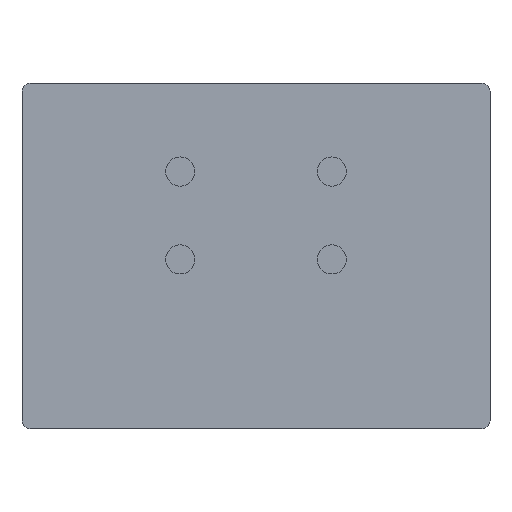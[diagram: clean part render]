
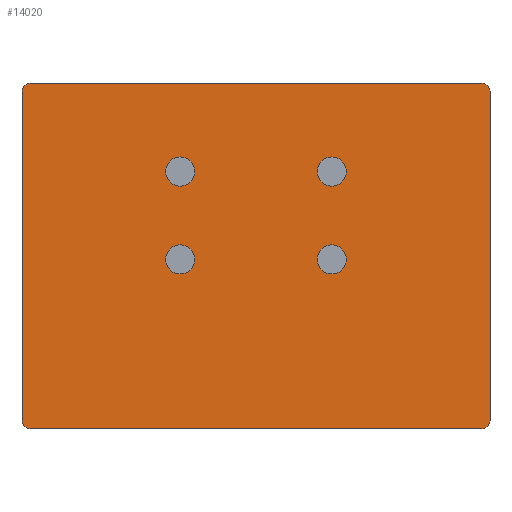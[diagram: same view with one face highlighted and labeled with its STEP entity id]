
A CAD part, front view. The second image highlights one B-rep face of the part: STEP entity #14020.
In plain terms, the highlighted planar face has unit normal (0, -1, 0).
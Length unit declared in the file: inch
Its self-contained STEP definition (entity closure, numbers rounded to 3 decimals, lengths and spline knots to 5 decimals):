
#809=FACE_BOUND('',#2209,.T.);
#810=FACE_BOUND('',#2210,.T.);
#811=FACE_BOUND('',#2211,.T.);
#812=FACE_BOUND('',#2212,.T.);
#899=PLANE('',#15051);
#1386=FACE_OUTER_BOUND('',#2208,.T.);
#2208=EDGE_LOOP('',(#9822,#9823,#9824,#9825,#9826,#9827,#9828,#9829));
#2209=EDGE_LOOP('',(#9830));
#2210=EDGE_LOOP('',(#9831));
#2211=EDGE_LOOP('',(#9832));
#2212=EDGE_LOOP('',(#9833));
#3040=LINE('',#19400,#4430);
#3077=LINE('',#19533,#4467);
#3105=LINE('',#19589,#4495);
#3106=LINE('',#19593,#4496);
#4430=VECTOR('',#16014,0.3937);
#4467=VECTOR('',#16125,0.3937);
#4495=VECTOR('',#16207,0.3937);
#4496=VECTOR('',#16210,0.3937);
#5812=CIRCLE('',#14973,0.1045);
#5814=CIRCLE('',#14976,0.1045);
#5816=CIRCLE('',#14979,0.1045);
#5818=CIRCLE('',#14982,0.1045);
#5820=CIRCLE('',#14985,0.06);
#5835=CIRCLE('',#15003,0.06);
#5846=CIRCLE('',#15052,0.06);
#5847=CIRCLE('',#15053,0.06);
#6123=VERTEX_POINT('',#19363);
#6125=VERTEX_POINT('',#19369);
#6127=VERTEX_POINT('',#19375);
#6129=VERTEX_POINT('',#19381);
#6131=VERTEX_POINT('',#19387);
#6132=VERTEX_POINT('',#19388);
#6136=VERTEX_POINT('',#19398);
#6168=VERTEX_POINT('',#19466);
#6195=VERTEX_POINT('',#19532);
#6196=VERTEX_POINT('',#19588);
#6197=VERTEX_POINT('',#19590);
#6198=VERTEX_POINT('',#19592);
#7503=EDGE_CURVE('',#6123,#6123,#5812,.T.);
#7506=EDGE_CURVE('',#6125,#6125,#5814,.T.);
#7509=EDGE_CURVE('',#6127,#6127,#5816,.T.);
#7512=EDGE_CURVE('',#6129,#6129,#5818,.T.);
#7515=EDGE_CURVE('',#6131,#6132,#5820,.T.);
#7521=EDGE_CURVE('',#6131,#6136,#3040,.T.);
#7555=EDGE_CURVE('',#6168,#6136,#5835,.T.);
#7582=EDGE_CURVE('',#6132,#6195,#3077,.T.);
#7610=EDGE_CURVE('',#6196,#6168,#3105,.T.);
#7611=EDGE_CURVE('',#6197,#6196,#5846,.T.);
#7612=EDGE_CURVE('',#6198,#6197,#3106,.T.);
#7613=EDGE_CURVE('',#6195,#6198,#5847,.T.);
#9822=ORIENTED_EDGE('',*,*,#7515,.F.);
#9823=ORIENTED_EDGE('',*,*,#7521,.T.);
#9824=ORIENTED_EDGE('',*,*,#7555,.F.);
#9825=ORIENTED_EDGE('',*,*,#7610,.F.);
#9826=ORIENTED_EDGE('',*,*,#7611,.F.);
#9827=ORIENTED_EDGE('',*,*,#7612,.F.);
#9828=ORIENTED_EDGE('',*,*,#7613,.F.);
#9829=ORIENTED_EDGE('',*,*,#7582,.F.);
#9830=ORIENTED_EDGE('',*,*,#7503,.T.);
#9831=ORIENTED_EDGE('',*,*,#7506,.T.);
#9832=ORIENTED_EDGE('',*,*,#7509,.T.);
#9833=ORIENTED_EDGE('',*,*,#7512,.T.);
#14020=ADVANCED_FACE('',(#1386,#809,#810,#811,#812),#899,.F.);
#14973=AXIS2_PLACEMENT_3D('',#19364,#15976,#15977);
#14976=AXIS2_PLACEMENT_3D('',#19370,#15983,#15984);
#14979=AXIS2_PLACEMENT_3D('',#19376,#15990,#15991);
#14982=AXIS2_PLACEMENT_3D('',#19382,#15997,#15998);
#14985=AXIS2_PLACEMENT_3D('',#19389,#16004,#16005);
#15003=AXIS2_PLACEMENT_3D('',#19468,#16065,#16066);
#15051=AXIS2_PLACEMENT_3D('',#19587,#16205,#16206);
#15052=AXIS2_PLACEMENT_3D('',#19591,#16208,#16209);
#15053=AXIS2_PLACEMENT_3D('',#19594,#16211,#16212);
#15976=DIRECTION('center_axis',(0.,1.,0.));
#15977=DIRECTION('ref_axis',(-1.,0.,0.));
#15983=DIRECTION('center_axis',(0.,1.,0.));
#15984=DIRECTION('ref_axis',(-1.,0.,0.));
#15990=DIRECTION('center_axis',(0.,1.,0.));
#15991=DIRECTION('ref_axis',(-1.,0.,0.));
#15997=DIRECTION('center_axis',(0.,1.,0.));
#15998=DIRECTION('ref_axis',(-1.,0.,0.));
#16004=DIRECTION('center_axis',(0.,1.,0.));
#16005=DIRECTION('ref_axis',(-0.707,0.,-0.707));
#16014=DIRECTION('',(1.,0.,0.));
#16065=DIRECTION('center_axis',(0.,1.,0.));
#16066=DIRECTION('ref_axis',(0.707,0.,-0.707));
#16125=DIRECTION('',(0.,0.,1.));
#16205=DIRECTION('center_axis',(0.,1.,0.));
#16206=DIRECTION('ref_axis',(0.,0.,-1.));
#16207=DIRECTION('',(0.,0.,-1.));
#16208=DIRECTION('center_axis',(0.,1.,0.));
#16209=DIRECTION('ref_axis',(0.707,0.,0.707));
#16210=DIRECTION('',(1.,0.,0.));
#16211=DIRECTION('center_axis',(0.,1.,0.));
#16212=DIRECTION('ref_axis',(-0.707,0.,0.707));
#19363=CARTESIAN_POINT('',(0.648,0.,0.6355));
#19364=CARTESIAN_POINT('Origin',(0.5435,0.,0.6355));
#19369=CARTESIAN_POINT('',(0.648,0.,1.2655));
#19370=CARTESIAN_POINT('Origin',(0.5435,0.,1.2655));
#19375=CARTESIAN_POINT('',(-0.439,0.,1.2655));
#19376=CARTESIAN_POINT('Origin',(-0.5435,0.,1.2655));
#19381=CARTESIAN_POINT('',(-0.439,0.,0.6355));
#19382=CARTESIAN_POINT('Origin',(-0.5435,0.,0.6355));
#19387=CARTESIAN_POINT('',(-1.618,0.,-0.58));
#19388=CARTESIAN_POINT('',(-1.678,0.,-0.52));
#19389=CARTESIAN_POINT('Origin',(-1.618,0.,-0.52));
#19398=CARTESIAN_POINT('',(1.618,0.,-0.58));
#19400=CARTESIAN_POINT('',(-0.9,0.,-0.58));
#19466=CARTESIAN_POINT('',(1.678,0.,-0.52));
#19468=CARTESIAN_POINT('Origin',(1.618,0.,-0.52));
#19532=CARTESIAN_POINT('',(-1.678,0.,1.84));
#19533=CARTESIAN_POINT('',(-1.678,0.,-1.9));
#19587=CARTESIAN_POINT('Origin',(-1.453,0.,0.9305));
#19588=CARTESIAN_POINT('',(1.678,0.,1.84));
#19589=CARTESIAN_POINT('',(1.678,0.,1.9));
#19590=CARTESIAN_POINT('',(1.618,0.,1.9));
#19591=CARTESIAN_POINT('Origin',(1.618,0.,1.84));
#19592=CARTESIAN_POINT('',(-1.618,0.,1.9));
#19593=CARTESIAN_POINT('',(-1.678,0.,1.9));
#19594=CARTESIAN_POINT('Origin',(-1.618,0.,1.84));
